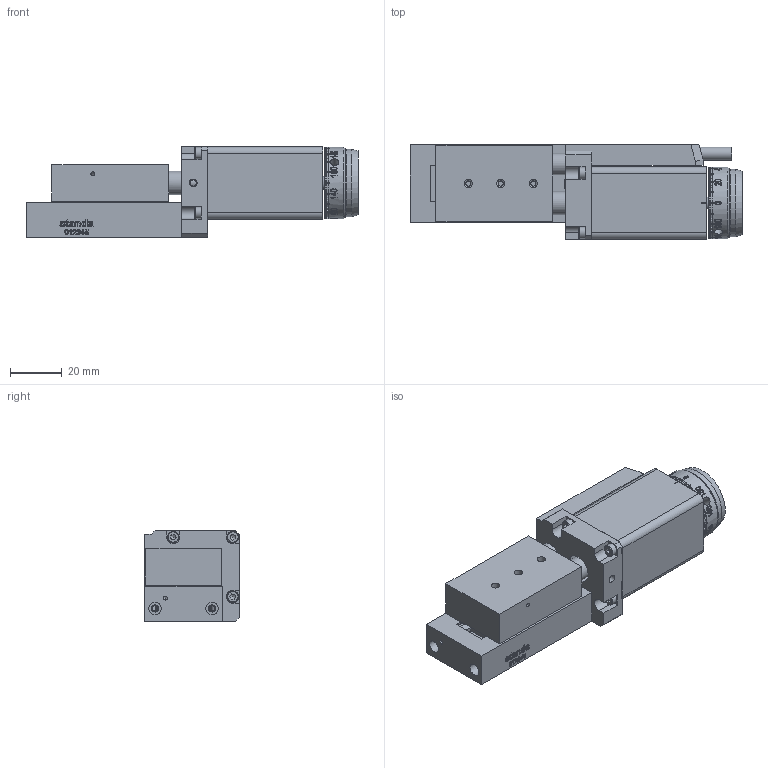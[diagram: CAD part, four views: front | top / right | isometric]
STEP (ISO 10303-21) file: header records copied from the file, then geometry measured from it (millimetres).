
FILE_DESCRIPTION(/* description */ (''),/* implementation_level */ '2;1');
FILE_NAME(/* name */ 'U:\KONSTRUKTORIAI\! ! ! BENDRAS ! ! !\Darius\Darius\Schemos\08\8MT173-10\step\8MT173-10.STEP',/* time_stamp */ '2015-11-02T16:47:54+02:00',/* author */ ('dsgn31'),/* organization */ (''),/* preprocessor_version */ 'ST-DEVELOPER v15.2',/* originating_system */ 'Autodesk Inventor 2014',/* authorisation */ '');
FILE_SCHEMA (('AUTOMOTIVE_DESIGN { 1 0 10303 214 3 1 1 }'));
Products named in the file (1): 8MT173-10-28_Shrinkwrap_1
Bounding box: 128 x 36.5 x 35 mm (x, y, z)
Volume: 92058.3 mm3; surface area: 39372.6 mm2
Topology: 4 solids, 28 shells, 1524 faces, 4096 edges, 2749 vertices
Faces by surface type: plane 814, cylinder 312, bspline 309, cone 64, torus 25
Full cylindrical faces by diameter (mm): 1.567 x6, 1.6 x2, 2 x1, 2.013 x23, 2.2 x1, 2.459 x3, 2.5 x20, 2.8 x2, 2.9 x2, 3 x7, 3.2 x16, 3.242 x3, 3.5 x1, 3.8 x1, 4.5 x18, 4.8 x2, 4.917 x3, 5 x3, 5.1 x13, 5.2 x2, 6 x1, 6.5 x1, 7 x2, 7.1 x1, 7.2 x1, 8 x2, 8.3 x1, 9 x1, 11 x3, 14.5 x1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
Entity records: 104925 total; most frequent: CARTESIAN_POINT 69527, ORIENTED_EDGE 7482, DIRECTION 5688, EDGE_CURVE 3740, VERTEX_POINT 2629, EDGE_LOOP 1959, AXIS2_PLACEMENT_3D 1949, LINE 1790
